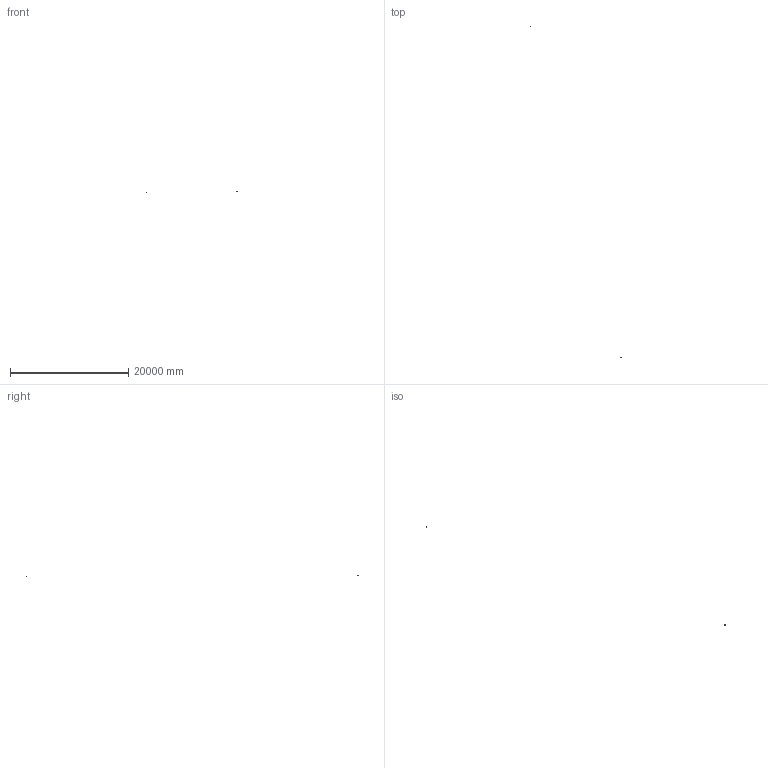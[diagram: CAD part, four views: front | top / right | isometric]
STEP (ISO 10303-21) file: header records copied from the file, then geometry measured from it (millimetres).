
FILE_DESCRIPTION (( 'STEP AP203' ), '1' );
FILE_NAME ('TS-7553-V2_E_3d-render.STEP', '2026-04-23T18:16:59', ( '' ), ( '' ), 'SwSTEP 2.0', 'SolidWorks 2025', '' );
FILE_SCHEMA (( 'CONFIG_CONTROL_DESIGN' ));
Products named in the file (1): TS-7553-V2_E_3d-render
Bounding box: 15334.17 x 56267.02 x 209.94 mm (x, y, z)
Volume: 61026.7 mm3; surface area: 63200.2 mm2
Topology: 3036 solids, 3038 shells, 26181 faces, 59490 edges, 39184 vertices
Faces by surface type: plane 18859, cylinder 6780, bspline 520, cone 18, sphere 4
Full cylindrical faces by diameter (mm): 0.2 x6, 0.25 x147, 0.4 x385, 0.45 x24, 0.5 x12, 0.8 x63, 0.85 x8, 0.9 x66, 1 x215, 1.016 x2, 1.1 x12, 1.2 x2, 1.25 x12, 1.35 x12, 1.397 x8, 1.4 x21, 1.5 x80, 1.524 x82, 1.6 x27, 1.62 x8, 1.626 x18, 1.7 x10, 2 x8, 2.032 x4, 2.3 x6, 2.35 x8, 2.5 x6, 2.54 x6, 2.6 x16, 2.8 x12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
Entity records: 738825 total; most frequent: CARTESIAN_POINT 152287, DIRECTION 119359, ORIENTED_EDGE 115836, EDGE_CURVE 57918, LINE 43127, VECTOR 43127, VERTEX_POINT 39176, AXIS2_PLACEMENT_3D 38116
